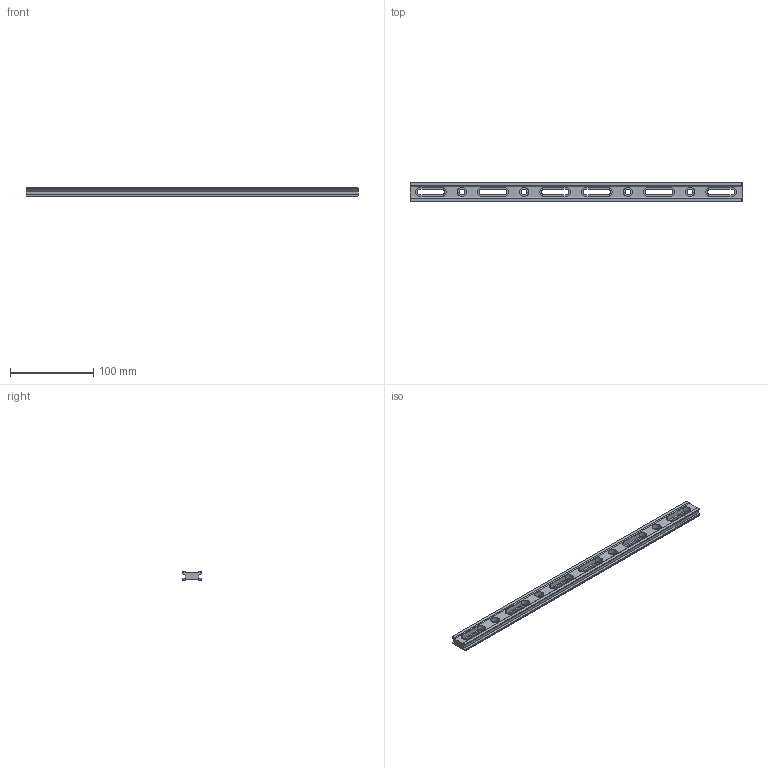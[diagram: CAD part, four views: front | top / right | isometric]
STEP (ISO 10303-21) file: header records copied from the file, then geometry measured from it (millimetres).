
FILE_DESCRIPTION( ( 'STEP AP203' ), '1' );
FILE_NAME( 'C:/3D-Trans/3D_A16-400+071218.stp', '2007-12-18T05:02:37', ( ' ' ), ( ' ' ), 'XStep 1.0', ' ', ' ' );
FILE_SCHEMA( ( 'CONFIG_CONTROL_DESIGN' ) );
Length unit declared in the file: millimetre
Products named in the file (1): 1
Bounding box: 400 x 23 x 10 mm (x, y, z)
Volume: 49004.6 mm3; surface area: 33272.5 mm2
Topology: 1 solids, 1 shells, 106 faces, 270 edges, 176 vertices
Faces by surface type: plane 74, cylinder 32
Full cylindrical faces by diameter (mm): 7 x4, 11 x4
Entity records: 3190 total; most frequent: CARTESIAN_POINT 537, DIRECTION 536, ORIENTED_EDGE 516, EDGE_CURVE 258, LINE 194, VECTOR 194, VERTEX_POINT 172, AXIS2_PLACEMENT_3D 171
